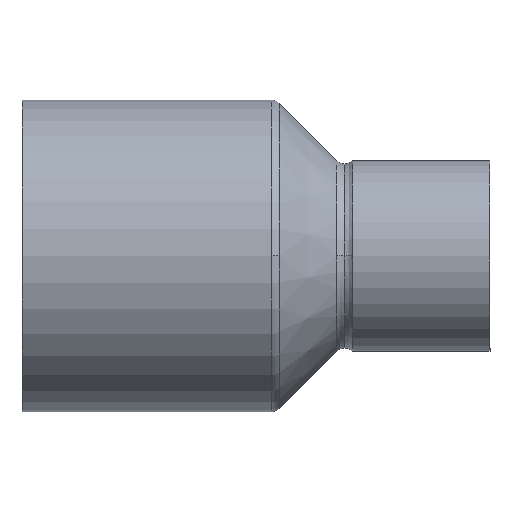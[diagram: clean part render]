
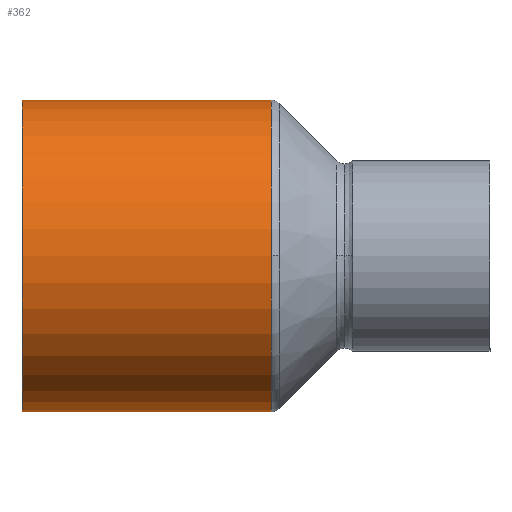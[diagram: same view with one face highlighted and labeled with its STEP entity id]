
A CAD part, top view. The second image highlights one B-rep face of the part: STEP entity #362.
In plain terms, the highlighted cylindrical face has radius 14 mm (diameter 28 mm), a partial arc.
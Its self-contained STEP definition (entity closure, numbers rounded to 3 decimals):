
#312=CARTESIAN_POINT('',(11.187,0.0,0.0));
#313=DIRECTION('',(1.0,0.0,0.0));
#314=DIRECTION('',(0.0,1.0,0.0));
#315=AXIS2_PLACEMENT_3D('',#312,#313,#314);
#316=CYLINDRICAL_SURFACE('',#315,14.0);
#317=CARTESIAN_POINT('',(0.,14.,0.0));
#318=VERTEX_POINT('',#317);
#319=CARTESIAN_POINT('',(22.373,14.0,0.0));
#320=VERTEX_POINT('',#319);
#321=CARTESIAN_POINT('',(0.,14.,0.0));
#322=DIRECTION('',(1.0,0.0,0.0));
#323=VECTOR('',#322,22.373);
#324=LINE('',#321,#323);
#325=EDGE_CURVE('',#318,#320,#324,.T.);
#326=ORIENTED_EDGE('',*,*,#325,.F.);
#327=CARTESIAN_POINT('',(0.,-14.,0.));
#328=VERTEX_POINT('',#327);
#329=CARTESIAN_POINT('',(0.,0.0,0.0));
#330=DIRECTION('',(1.0,0.0,0.0));
#331=DIRECTION('',(0.0,1.0,0.0));
#332=AXIS2_PLACEMENT_3D('',#329,#330,#331);
#333=CIRCLE('',#332,14.);
#334=EDGE_CURVE('',#318,#328,#333,.T.);
#335=ORIENTED_EDGE('',*,*,#334,.T.);
#336=CARTESIAN_POINT('',(22.373,-14.0,0.));
#337=VERTEX_POINT('',#336);
#338=CARTESIAN_POINT('',(22.373,-14.0,0.));
#339=DIRECTION('',(-1.0,0.0,0.0));
#340=VECTOR('',#339,22.373);
#341=LINE('',#338,#340);
#342=EDGE_CURVE('',#337,#328,#341,.T.);
#343=ORIENTED_EDGE('',*,*,#342,.F.);
#344=CARTESIAN_POINT('',(22.373,0.,14.0));
#345=VERTEX_POINT('',#344);
#346=CARTESIAN_POINT('',(22.373,0.0,0.0));
#347=DIRECTION('',(1.0,0.0,0.0));
#348=DIRECTION('',(0.0,1.0,0.0));
#349=AXIS2_PLACEMENT_3D('',#346,#347,#348);
#350=CIRCLE('',#349,14.0);
#351=EDGE_CURVE('',#345,#337,#350,.T.);
#352=ORIENTED_EDGE('',*,*,#351,.F.);
#353=CARTESIAN_POINT('',(22.373,0.0,0.0));
#354=DIRECTION('',(1.0,0.0,0.0));
#355=DIRECTION('',(0.0,1.0,0.0));
#356=AXIS2_PLACEMENT_3D('',#353,#354,#355);
#357=CIRCLE('',#356,14.0);
#358=EDGE_CURVE('',#320,#345,#357,.T.);
#359=ORIENTED_EDGE('',*,*,#358,.F.);
#360=EDGE_LOOP('',(#326,#335,#343,#352,#359));
#361=FACE_OUTER_BOUND('',#360,.T.);
#362=ADVANCED_FACE('',(#361),#316,.T.);
